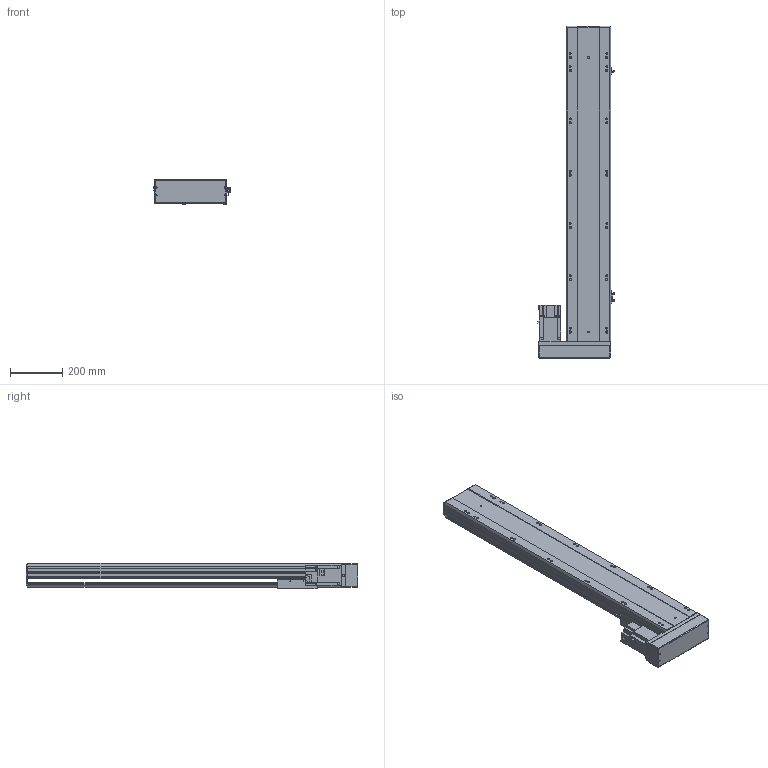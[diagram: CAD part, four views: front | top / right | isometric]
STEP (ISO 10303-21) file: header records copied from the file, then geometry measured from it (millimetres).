
FILE_DESCRIPTION (( 'STEP AP203' ), '1' );
FILE_NAME ('2.STEP', '2020-08-19T05:44:19', ( 'CXY' ), ( 'BOTI' ), 'SwSTEP 2.0', 'SolidWorks 2016', '' );
FILE_SCHEMA (( 'CONFIG_CONTROL_DESIGN' ));
Length unit declared in the file: millimetre
Products named in the file (15): BTH17M-BL-02; BTH17M-BL-04; BTH17M-BL-01; BTH17M-BL-菁釱; BTH17M-BL-T75; BTH17M-BL-HZ; 2
Assembly tree (8 placements, depth 2):
  BTH17M-BL-04
  BTH17M-BL-T75
  BTH17M-BL-04
  BTH17M-BL-HZ
  BTH17M-BL-04
Bounding box: 293 x 1269 x 97 mm (x, y, z)
Volume: 9199774.9 mm3; surface area: 1562551.6 mm2
Topology: 12 solids, 12 shells, 1060 faces, 2862 edges, 1867 vertices
Faces by surface type: plane 722, cylinder 286, cone 32, bspline 20
Full cylindrical faces by diameter (mm): 3.3 x4, 4.5 x14, 5 x10, 6 x10, 6.5 x4, 6.8 x14, 7.5 x4, 8 x6, 9 x14, 10 x4, 13.5 x14, 19 x1, 36 x1, 70 x1
Entity records: 27063 total; most frequent: CARTESIAN_POINT 5604, ORIENTED_EDGE 4060, DIRECTION 4036, EDGE_CURVE 2030, VECTOR 1448, LINE 1448, VERTEX_POINT 1386, AXIS2_PLACEMENT_3D 1294
